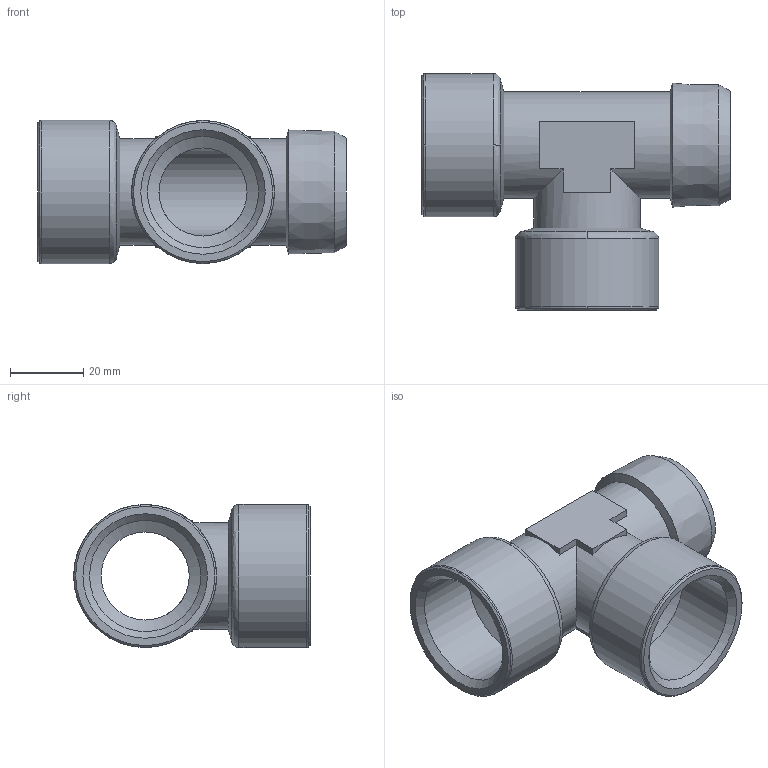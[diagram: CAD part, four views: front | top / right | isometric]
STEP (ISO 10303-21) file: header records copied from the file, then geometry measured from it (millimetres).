
FILE_DESCRIPTION (( 'STEP AP214' ), '1' );
FILE_NAME ('0405000010900A.STEP', '2013-08-07T15:08:13', ( 'ST01' ), ( '' ), 'SwSTEP 2.0', 'SolidWorks 2012', '' );
FILE_SCHEMA (( 'AUTOMOTIVE_DESIGN' ));
Length unit declared in the file: millimetre
Products named in the file (1): 0405000010900A
Bounding box: 84 x 64.5 x 39 mm (x, y, z)
Volume: 38596.8 mm3; surface area: 23382.3 mm2
Topology: 1 solids, 1 shells, 51 faces, 128 edges, 78 vertices
Faces by surface type: plane 21, cone 13, cylinder 9, bspline 8
Full cylindrical faces by diameter (mm): 24 x2, 25 x1, 29 x2, 30.291 x2, 39 x2
Entity records: 1446 total; most frequent: CARTESIAN_POINT 374, DIRECTION 214, ORIENTED_EDGE 192, EDGE_CURVE 96, AXIS2_PLACEMENT_3D 86, EDGE_LOOP 78, VERTEX_POINT 70, FACE_OUTER_BOUND 60
